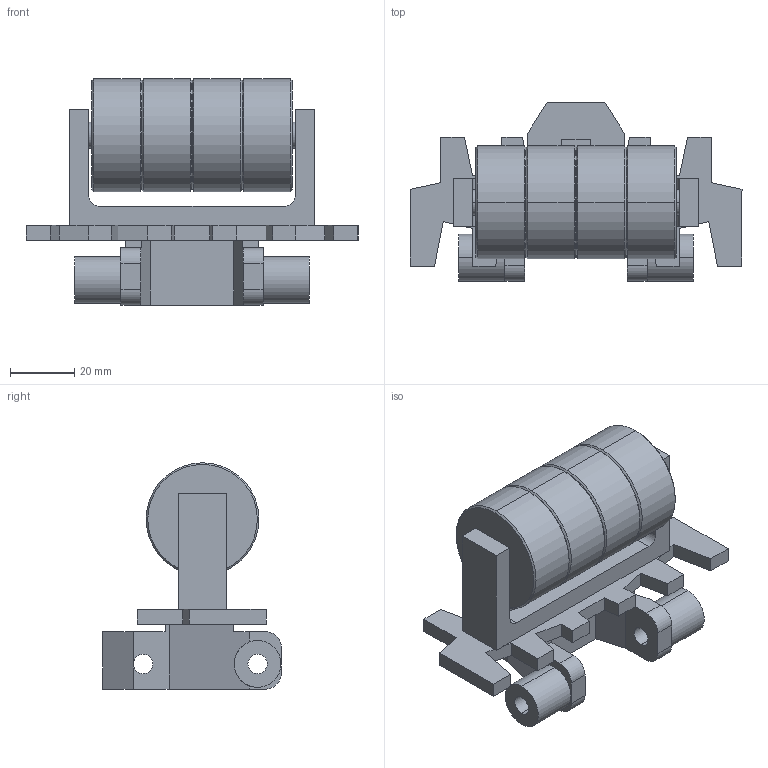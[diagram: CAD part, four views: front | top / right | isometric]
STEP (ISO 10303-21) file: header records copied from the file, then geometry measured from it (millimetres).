
FILE_DESCRIPTION (( 'STEP AP214' ), '1' );
FILE_NAME ('FCRC 5B.step', '2017-04-04T13:29:22', ( '' ), ( '' ), 'SwSTEP 2.0', 'SolidWorks 2015', '' );
FILE_SCHEMA (( 'AUTOMOTIVE_DESIGN' ));
Length unit declared in the file: millimetre
Products named in the file (1): FCRC 5B
Bounding box: 103 x 55.39 x 70.25 mm (x, y, z)
Volume: 109453.9 mm3; surface area: 32913.1 mm2
Topology: 3 solids, 3 shells, 159 faces, 406 edges, 256 vertices
Faces by surface type: plane 89, cylinder 38, cone 32
Entity records: 5398 total; most frequent: CARTESIAN_POINT 828, DIRECTION 826, ORIENTED_EDGE 812, EDGE_CURVE 406, VECTOR 302, LINE 302, AXIS2_PLACEMENT_3D 262, VERTEX_POINT 256
